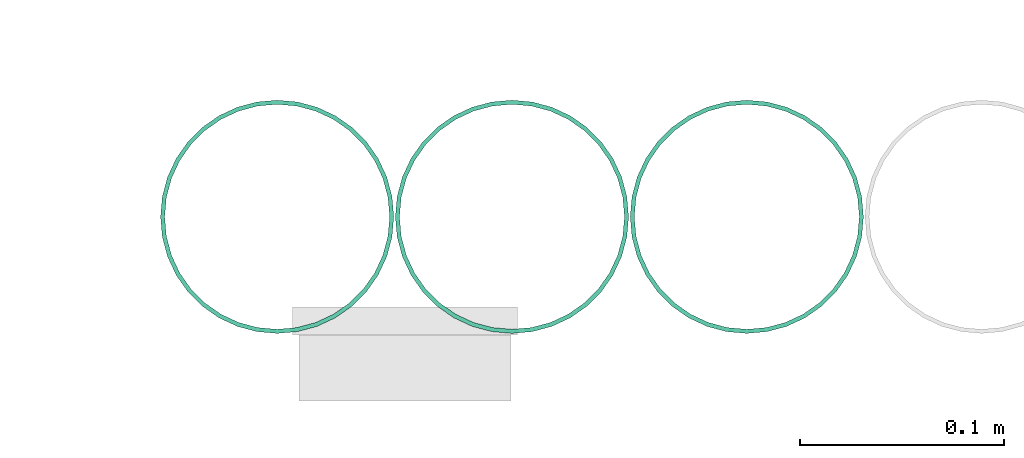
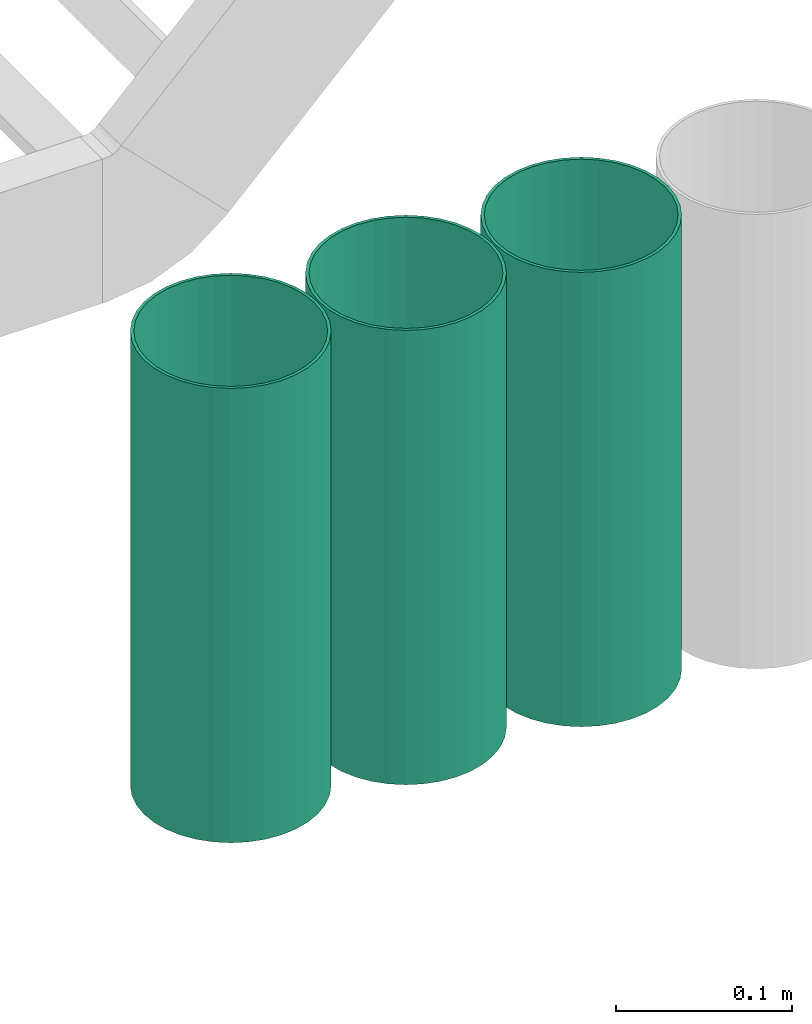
# One storey, part 11 of 14: 3 flow segments.
"""IFC2X3 building model written with IfcOpenShell, lengths in millimetres."""

from ifc_helpers import new_model, entity, si_unit, converted_unit, derived_unit, direction, frame, place, context, subcontext, project, spatial, faceted_brep, type_object, element, save


model = new_model("IFC2X3")

# Units and contexts
model_context = context("Model", 3, precision=0.01, world=frame((0.0, 4.29681676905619e-09, 0.0)), true_north=direction((4.01073788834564e-13, 1.0)))
plan_context = context("Plan", 3, precision=0.01, world=frame((0.0, 4.29681676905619e-09, 0.0)), true_north=direction((4.01073788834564e-13, 1.0)))
body_context = subcontext(model_context, "Body", "Model", "MODEL_VIEW")
ifc_project = project(units=[converted_unit("PLANEANGLEUNIT", "DEGREE", entity("IfcPositiveLengthMeasure", 0.0174532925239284), si_unit("PLANEANGLEUNIT", "RADIAN"), dimensions=[0, 0, 0, 0, 0, 0, 0]), si_unit("AREAUNIT", "SQUARE_METRE"), si_unit("LENGTHUNIT", "METRE", prefix="MILLI"), si_unit("MASSUNIT", "GRAM", prefix="KILO"), si_unit("POWERUNIT", "WATT"), si_unit("PRESSUREUNIT", "PASCAL"), si_unit("FORCEUNIT", "NEWTON", prefix="KILO"), si_unit("ELECTRICVOLTAGEUNIT", "VOLT"), si_unit("ELECTRICCURRENTUNIT", "AMPERE"), si_unit("THERMODYNAMICTEMPERATUREUNIT", "DEGREE_CELSIUS"), si_unit("TIMEUNIT", "SECOND"), si_unit("VOLUMEUNIT", "CUBIC_METRE"), derived_unit("LINEARVELOCITYUNIT", [(si_unit("LENGTHUNIT", "METRE"), 1), (si_unit("TIMEUNIT", "SECOND"), -1)]), derived_unit("VOLUMETRICFLOWRATEUNIT", [(si_unit("VOLUMEUNIT", "CUBIC_METRE"), 1), (si_unit("TIMEUNIT", "SECOND"), -1)]), derived_unit("THERMALTRANSMITTANCEUNIT", [(si_unit("POWERUNIT", "WATT"), 1), (si_unit("THERMODYNAMICTEMPERATUREUNIT", "KELVIN"), -1), (si_unit("AREAUNIT", "SQUARE_METRE"), -1)]), derived_unit("SOUNDPRESSUREUNIT", [(si_unit("PRESSUREUNIT", "PASCAL"), 1)])], contexts=[model_context, plan_context])

# Site, building, storey
site_placement = place(None, frame((0.0, -4.29681676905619e-09, 0.0), z_axis=(0.0, 0.0, 1.0), x_axis=(1.0, 0.0, 0.0)))
site = spatial("IfcSite", under=ifc_project, at=site_placement, Name="ENGM", CompositionType="ELEMENT")
building_placement = place(site_placement, frame((0.0, 4.29681676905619e-09, 0.0), z_axis=(0.0, 0.0, 1.0), x_axis=(1.0, 0.0, 0.0)))
building = spatial("IfcBuilding", under=site, at=building_placement, Name="TH", CompositionType="ELEMENT")
storey_placement = place(building_placement, frame((0.0, 0.0, 205200.0), z_axis=(0.0, 0.0, 1.0), x_axis=(1.0, 0.0, 0.0)))
storey = spatial("IfcBuildingStorey", under=building, at=storey_placement, Name="Nivå D + 1,2 m", CompositionType="ELEMENT", Elevation=205200.0)

# Flow segments
cable_carrier_segment_type = type_object("IfcCableCarrierSegmentType", Name="Trekkerør, glatt", PredefinedType="CONDUITSEGMENT")
flow_segment_1_placement = place(storey_placement, frame((898570.96951, 480505.64423, 2515.29999999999), z_axis=(-1.0, 0.0, 0.0), x_axis=(0.0, 0.0, 1.0)))
element("IfcFlowSegment", 1, at=flow_segment_1_placement, inside=storey, type_object=cable_carrier_segment_type, Name="Trekkerør, glatt", context=body_context, shape_type="Brep", body=[
    faceted_brep([(1484.70000000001, 54.2629071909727, -9.56801458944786), (1484.70000000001, 55.1, 0.0), (1800.0, 55.1, 0.0), (1800.0, 54.2629071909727, -9.56801458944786), (1484.70000000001, 51.7770634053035, -18.8453098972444), (1800.0, 51.7770634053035, -18.8453098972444), (1484.70000000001, 47.7179997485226, -27.55), (1800.0, 47.7179997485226, -27.55), (1484.70000000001, 42.2090488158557, -35.4175972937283), (1800.0, 42.2090488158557, -35.4175972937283), (1484.70000000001, 35.4175972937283, -42.2090488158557), (1800.0, 35.4175972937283, -42.2090488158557), (1484.70000000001, 27.55, -47.7179997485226), (1800.0, 27.55, -47.7179997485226), (1484.70000000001, 18.8453098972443, -51.7770634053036), (1800.0, 18.8453098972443, -51.7770634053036), (1484.70000000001, 9.56801458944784, -54.2629071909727), (1800.0, 9.56801458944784, -54.2629071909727), (1484.70000000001, -1.01217057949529e-14, -55.1), (1800.0, -1.01217057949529e-14, -55.1), (1484.70000000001, -9.56801458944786, -54.2629071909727), (1800.0, -9.56801458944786, -54.2629071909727), (1484.70000000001, -18.8453098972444, -51.7770634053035), (1800.0, -18.8453098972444, -51.7770634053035), (1484.70000000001, -27.55, -47.7179997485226), (1800.0, -27.55, -47.7179997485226), (1484.70000000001, -35.4175972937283, -42.2090488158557), (1800.0, -35.4175972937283, -42.2090488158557), (1484.70000000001, -42.2090488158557, -35.4175972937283), (1800.0, -42.2090488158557, -35.4175972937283), (1484.70000000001, -47.7179997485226, -27.55), (1800.0, -47.7179997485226, -27.55), (1484.70000000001, -51.7770634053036, -18.8453098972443), (1800.0, -51.7770634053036, -18.8453098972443), (1484.70000000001, -54.2629071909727, -9.56801458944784), (1800.0, -54.2629071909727, -9.56801458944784), (1484.70000000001, -55.1, 6.74780386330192e-15), (1800.0, -55.1, 6.74780386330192e-15), (1484.70000000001, -54.2629071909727, 9.56801458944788), (1800.0, -54.2629071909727, 9.56801458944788), (1484.70000000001, -51.7770634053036, 18.8453098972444), (1800.0, -51.7770634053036, 18.8453098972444), (1484.70000000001, -47.7179997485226, 27.55), (1800.0, -47.7179997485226, 27.55), (1484.70000000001, -42.2090488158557, 35.4175972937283), (1800.0, -42.2090488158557, 35.4175972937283), (1484.70000000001, -35.4175972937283, 42.2090488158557), (1800.0, -35.4175972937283, 42.2090488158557), (1484.70000000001, -27.55, 47.7179997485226), (1800.0, -27.55, 47.7179997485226), (1484.70000000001, -18.8453098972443, 51.7770634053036), (1800.0, -18.8453098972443, 51.7770634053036), (1484.70000000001, -9.56801458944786, 54.2629071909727), (1800.0, -9.56801458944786, 54.2629071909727), (1484.70000000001, 3.37390193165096e-15, 55.1), (1800.0, 3.37390193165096e-15, 55.1), (1484.70000000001, 9.56801458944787, 54.2629071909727), (1800.0, 9.56801458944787, 54.2629071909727), (1484.70000000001, 18.8453098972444, 51.7770634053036), (1800.0, 18.8453098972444, 51.7770634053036), (1484.70000000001, 27.55, 47.7179997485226), (1800.0, 27.55, 47.7179997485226), (1484.70000000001, 35.4175972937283, 42.2090488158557), (1800.0, 35.4175972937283, 42.2090488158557), (1484.70000000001, 42.2090488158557, 35.4175972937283), (1800.0, 42.2090488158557, 35.4175972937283), (1484.70000000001, 47.7179997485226, 27.55), (1800.0, 47.7179997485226, 27.55), (1484.70000000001, 51.7770634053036, 18.8453098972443), (1800.0, 51.7770634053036, 18.8453098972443), (1484.70000000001, 54.2629071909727, 9.56801458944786), (1800.0, 54.2629071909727, 9.56801458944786), (1484.70000000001, 57.1, 0.0), (1484.70000000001, 56.2325226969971, -9.91531094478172), (1800.0, 56.2325226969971, -9.91531094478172), (1800.0, 57.1, 0.0), (1484.70000000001, 56.2325226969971, 9.91531094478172), (1800.0, 56.2325226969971, 9.91531094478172), (1484.70000000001, 53.6564486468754, 19.5293501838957), (1800.0, 53.6564486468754, 19.5293501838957), (1484.70000000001, 49.4500505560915, 28.55), (1800.0, 49.4500505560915, 28.55), (1484.70000000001, 43.7411377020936, 36.7031725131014), (1800.0, 43.7411377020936, 36.7031725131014), (1484.70000000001, 36.7031725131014, 43.7411377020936), (1800.0, 36.7031725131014, 43.7411377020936), (1484.70000000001, 28.55, 49.4500505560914), (1800.0, 28.55, 49.4500505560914), (1484.70000000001, 19.5293501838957, 53.6564486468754), (1800.0, 19.5293501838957, 53.6564486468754), (1484.70000000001, 9.91531094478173, 56.2325226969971), (1800.0, 9.91531094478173, 56.2325226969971), (1484.70000000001, 3.49636661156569e-15, 57.1), (1800.0, 3.49636661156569e-15, 57.1), (1484.70000000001, -9.91531094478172, 56.2325226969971), (1800.0, -9.91531094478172, 56.2325226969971), (1484.70000000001, -19.5293501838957, 53.6564486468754), (1800.0, -19.5293501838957, 53.6564486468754), (1484.70000000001, -28.55, 49.4500505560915), (1800.0, -28.55, 49.4500505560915), (1484.70000000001, -36.7031725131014, 43.7411377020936), (1800.0, -36.7031725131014, 43.7411377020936), (1484.70000000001, -43.7411377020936, 36.7031725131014), (1800.0, -43.7411377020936, 36.7031725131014), (1484.70000000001, -49.4500505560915, 28.55), (1800.0, -49.4500505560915, 28.55), (1484.70000000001, -53.6564486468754, 19.5293501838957), (1800.0, -53.6564486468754, 19.5293501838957), (1484.70000000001, -56.2325226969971, 9.91531094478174), (1800.0, -56.2325226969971, 9.91531094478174), (1484.70000000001, -57.1, 6.99273322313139e-15), (1800.0, -57.1, 6.99273322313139e-15), (1484.70000000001, -56.2325226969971, -9.9153109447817), (1800.0, -56.2325226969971, -9.91531094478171), (1484.70000000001, -53.6564486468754, -19.5293501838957), (1800.0, -53.6564486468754, -19.5293501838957), (1484.70000000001, -49.4500505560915, -28.55), (1800.0, -49.4500505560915, -28.55), (1484.70000000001, -43.7411377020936, -36.7031725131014), (1800.0, -43.7411377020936, -36.7031725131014), (1484.70000000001, -36.7031725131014, -43.7411377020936), (1800.0, -36.7031725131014, -43.7411377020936), (1484.70000000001, -28.55, -49.4500505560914), (1800.0, -28.55, -49.4500505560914), (1484.70000000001, -19.5293501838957, -53.6564486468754), (1800.0, -19.5293501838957, -53.6564486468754), (1484.70000000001, -9.91531094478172, -56.2325226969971), (1800.0, -9.91531094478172, -56.2325226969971), (1484.70000000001, -1.04890998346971e-14, -57.1), (1800.0, -1.04890998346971e-14, -57.1), (1484.70000000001, 9.9153109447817, -56.2325226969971), (1800.0, 9.9153109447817, -56.2325226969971), (1484.70000000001, 19.5293501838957, -53.6564486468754), (1800.0, 19.5293501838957, -53.6564486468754), (1484.70000000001, 28.55, -49.4500505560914), (1800.0, 28.55, -49.4500505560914), (1484.70000000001, 36.7031725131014, -43.7411377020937), (1800.0, 36.7031725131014, -43.7411377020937), (1484.70000000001, 43.7411377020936, -36.7031725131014), (1800.0, 43.7411377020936, -36.7031725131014), (1484.70000000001, 49.4500505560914, -28.55), (1800.0, 49.4500505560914, -28.55), (1484.70000000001, 53.6564486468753, -19.5293501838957), (1800.0, 53.6564486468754, -19.5293501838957)], [[[0, 1, 2, 3]], [[4, 0, 3, 5]], [[6, 4, 5, 7]], [[8, 6, 7, 9]], [[10, 8, 9, 11]], [[12, 10, 11, 13]], [[14, 12, 13, 15]], [[16, 14, 15, 17]], [[18, 16, 17, 19]], [[20, 18, 19, 21]], [[22, 20, 21, 23]], [[24, 22, 23, 25]], [[26, 24, 25, 27]], [[28, 26, 27, 29]], [[30, 28, 29, 31]], [[32, 30, 31, 33]], [[34, 32, 33, 35]], [[36, 34, 35, 37]], [[38, 36, 37, 39]], [[40, 38, 39, 41]], [[42, 40, 41, 43]], [[44, 42, 43, 45]], [[46, 44, 45, 47]], [[48, 46, 47, 49]], [[50, 48, 49, 51]], [[52, 50, 51, 53]], [[54, 52, 53, 55]], [[56, 54, 55, 57]], [[58, 56, 57, 59]], [[60, 58, 59, 61]], [[62, 60, 61, 63]], [[64, 62, 63, 65]], [[66, 64, 65, 67]], [[68, 66, 67, 69]], [[70, 68, 69, 71]], [[1, 70, 71, 2]], [[72, 73, 74, 75]], [[76, 72, 75, 77]], [[78, 76, 77, 79]], [[80, 78, 79, 81]], [[82, 80, 81, 83]], [[84, 82, 83, 85]], [[86, 84, 85, 87]], [[88, 86, 87, 89]], [[90, 88, 89, 91]], [[92, 90, 91, 93]], [[94, 92, 93, 95]], [[96, 94, 95, 97]], [[98, 96, 97, 99]], [[100, 98, 99, 101]], [[102, 100, 101, 103]], [[104, 102, 103, 105]], [[106, 104, 105, 107]], [[108, 106, 107, 109]], [[110, 108, 109, 111]], [[112, 110, 111, 113]], [[114, 112, 113, 115]], [[116, 114, 115, 117]], [[118, 116, 117, 119]], [[120, 118, 119, 121]], [[122, 120, 121, 123]], [[124, 122, 123, 125]], [[126, 124, 125, 127]], [[128, 126, 127, 129]], [[130, 128, 129, 131]], [[132, 130, 131, 133]], [[134, 132, 133, 135]], [[136, 134, 135, 137]], [[138, 136, 137, 139]], [[140, 138, 139, 141]], [[142, 140, 141, 143]], [[73, 142, 143, 74]], [[75, 74, 143, 141, 139, 137, 135, 133, 131, 129, 127, 125, 123, 121, 119, 117, 115, 113, 111, 109, 107, 105, 103, 101, 99, 97, 95, 93, 91, 89, 87, 85, 83, 81, 79, 77], [2, 71, 69, 67, 65, 63, 61, 59, 57, 55, 53, 51, 49, 47, 45, 43, 41, 39, 37, 35, 33, 31, 29, 27, 25, 23, 21, 19, 17, 15, 13, 11, 9, 7, 5, 3]], [[76, 78, 80, 82, 84, 86, 88, 90, 92, 94, 96, 98, 100, 102, 104, 106, 108, 110, 112, 114, 116, 118, 120, 122, 124, 126, 128, 130, 132, 134, 136, 138, 140, 142, 73, 72], [4, 6, 8, 10, 12, 14, 16, 18, 20, 22, 24, 26, 28, 30, 32, 34, 36, 38, 40, 42, 44, 46, 48, 50, 52, 54, 56, 58, 60, 62, 64, 66, 68, 70, 1, 0]]], orient=[[False], [False], [False], [False], [False], [False], [False], [False], [False], [False], [False], [False], [False], [False], [False], [False], [False], [False], [False], [False], [False], [False], [False], [False], [False], [False], [False], [False], [False], [False], [False], [False], [False], [False], [False], [False], [False], [False], [False], [False], [False], [False], [False], [False], [False], [False], [False], [False], [False], [False], [False], [False], [False], [False], [False], [False], [False], [False], [False], [False], [False], [False], [False], [False], [False], [False], [False], [False], [False], [False], [False], [False], [False, False], [False, False]]),
])
flow_segment_2_placement = place(storey_placement, frame((898685.96951, 480505.64423, 2515.29999999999), z_axis=(-1.0, 0.0, 0.0), x_axis=(0.0, 0.0, 1.0)))
element("IfcFlowSegment", 2, at=flow_segment_2_placement, inside=storey, type_object=cable_carrier_segment_type, Name="Trekkerør, glatt", context=body_context, shape_type="Brep", body=[
    faceted_brep([(1484.70000000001, 54.2629071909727, -9.56801458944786), (1484.70000000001, 55.1, 0.0), (1800.0, 55.1, 0.0), (1800.0, 54.2629071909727, -9.56801458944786), (1484.70000000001, 51.7770634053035, -18.8453098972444), (1800.0, 51.7770634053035, -18.8453098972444), (1484.70000000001, 47.7179997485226, -27.55), (1800.0, 47.7179997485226, -27.55), (1484.70000000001, 42.2090488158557, -35.4175972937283), (1800.0, 42.2090488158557, -35.4175972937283), (1484.70000000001, 35.4175972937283, -42.2090488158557), (1800.0, 35.4175972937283, -42.2090488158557), (1484.70000000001, 27.55, -47.7179997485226), (1800.0, 27.55, -47.7179997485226), (1484.70000000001, 18.8453098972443, -51.7770634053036), (1800.0, 18.8453098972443, -51.7770634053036), (1484.70000000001, 9.56801458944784, -54.2629071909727), (1800.0, 9.56801458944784, -54.2629071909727), (1484.70000000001, -1.01217057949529e-14, -55.1), (1800.0, -1.01217057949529e-14, -55.1), (1484.70000000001, -9.56801458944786, -54.2629071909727), (1800.0, -9.56801458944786, -54.2629071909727), (1484.70000000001, -18.8453098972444, -51.7770634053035), (1800.0, -18.8453098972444, -51.7770634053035), (1484.70000000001, -27.55, -47.7179997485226), (1800.0, -27.55, -47.7179997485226), (1484.70000000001, -35.4175972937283, -42.2090488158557), (1800.0, -35.4175972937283, -42.2090488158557), (1484.70000000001, -42.2090488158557, -35.4175972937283), (1800.0, -42.2090488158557, -35.4175972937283), (1484.70000000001, -47.7179997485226, -27.55), (1800.0, -47.7179997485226, -27.55), (1484.70000000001, -51.7770634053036, -18.8453098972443), (1800.0, -51.7770634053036, -18.8453098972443), (1484.70000000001, -54.2629071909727, -9.56801458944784), (1800.0, -54.2629071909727, -9.56801458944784), (1484.70000000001, -55.1, 6.74780386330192e-15), (1800.0, -55.1, 6.74780386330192e-15), (1484.70000000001, -54.2629071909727, 9.56801458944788), (1800.0, -54.2629071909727, 9.56801458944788), (1484.70000000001, -51.7770634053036, 18.8453098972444), (1800.0, -51.7770634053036, 18.8453098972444), (1484.70000000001, -47.7179997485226, 27.55), (1800.0, -47.7179997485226, 27.55), (1484.70000000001, -42.2090488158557, 35.4175972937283), (1800.0, -42.2090488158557, 35.4175972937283), (1484.70000000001, -35.4175972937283, 42.2090488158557), (1800.0, -35.4175972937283, 42.2090488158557), (1484.70000000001, -27.55, 47.7179997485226), (1800.0, -27.55, 47.7179997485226), (1484.70000000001, -18.8453098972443, 51.7770634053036), (1800.0, -18.8453098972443, 51.7770634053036), (1484.70000000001, -9.56801458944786, 54.2629071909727), (1800.0, -9.56801458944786, 54.2629071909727), (1484.70000000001, 3.37390193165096e-15, 55.1), (1800.0, 3.37390193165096e-15, 55.1), (1484.70000000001, 9.56801458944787, 54.2629071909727), (1800.0, 9.56801458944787, 54.2629071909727), (1484.70000000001, 18.8453098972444, 51.7770634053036), (1800.0, 18.8453098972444, 51.7770634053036), (1484.70000000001, 27.55, 47.7179997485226), (1800.0, 27.55, 47.7179997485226), (1484.70000000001, 35.4175972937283, 42.2090488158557), (1800.0, 35.4175972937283, 42.2090488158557), (1484.70000000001, 42.2090488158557, 35.4175972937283), (1800.0, 42.2090488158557, 35.4175972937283), (1484.70000000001, 47.7179997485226, 27.55), (1800.0, 47.7179997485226, 27.55), (1484.70000000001, 51.7770634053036, 18.8453098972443), (1800.0, 51.7770634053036, 18.8453098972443), (1484.70000000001, 54.2629071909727, 9.56801458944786), (1800.0, 54.2629071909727, 9.56801458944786), (1484.70000000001, 57.1, 0.0), (1484.70000000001, 56.2325226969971, -9.91531094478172), (1800.0, 56.2325226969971, -9.91531094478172), (1800.0, 57.1, 0.0), (1484.70000000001, 56.2325226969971, 9.91531094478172), (1800.0, 56.2325226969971, 9.91531094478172), (1484.70000000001, 53.6564486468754, 19.5293501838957), (1800.0, 53.6564486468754, 19.5293501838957), (1484.70000000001, 49.4500505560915, 28.55), (1800.0, 49.4500505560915, 28.55), (1484.70000000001, 43.7411377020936, 36.7031725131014), (1800.0, 43.7411377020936, 36.7031725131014), (1484.70000000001, 36.7031725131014, 43.7411377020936), (1800.0, 36.7031725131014, 43.7411377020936), (1484.70000000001, 28.55, 49.4500505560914), (1800.0, 28.55, 49.4500505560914), (1484.70000000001, 19.5293501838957, 53.6564486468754), (1800.0, 19.5293501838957, 53.6564486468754), (1484.70000000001, 9.91531094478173, 56.2325226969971), (1800.0, 9.91531094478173, 56.2325226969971), (1484.70000000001, 3.49636661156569e-15, 57.1), (1800.0, 3.49636661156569e-15, 57.1), (1484.70000000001, -9.91531094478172, 56.2325226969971), (1800.0, -9.91531094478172, 56.2325226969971), (1484.70000000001, -19.5293501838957, 53.6564486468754), (1800.0, -19.5293501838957, 53.6564486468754), (1484.70000000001, -28.55, 49.4500505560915), (1800.0, -28.55, 49.4500505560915), (1484.70000000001, -36.7031725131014, 43.7411377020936), (1800.0, -36.7031725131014, 43.7411377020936), (1484.70000000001, -43.7411377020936, 36.7031725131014), (1800.0, -43.7411377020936, 36.7031725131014), (1484.70000000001, -49.4500505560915, 28.55), (1800.0, -49.4500505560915, 28.55), (1484.70000000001, -53.6564486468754, 19.5293501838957), (1800.0, -53.6564486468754, 19.5293501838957), (1484.70000000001, -56.2325226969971, 9.91531094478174), (1800.0, -56.2325226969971, 9.91531094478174), (1484.70000000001, -57.1, 6.99273322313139e-15), (1800.0, -57.1, 6.99273322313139e-15), (1484.70000000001, -56.2325226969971, -9.9153109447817), (1800.0, -56.2325226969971, -9.91531094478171), (1484.70000000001, -53.6564486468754, -19.5293501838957), (1800.0, -53.6564486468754, -19.5293501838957), (1484.70000000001, -49.4500505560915, -28.55), (1800.0, -49.4500505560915, -28.55), (1484.70000000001, -43.7411377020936, -36.7031725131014), (1800.0, -43.7411377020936, -36.7031725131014), (1484.70000000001, -36.7031725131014, -43.7411377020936), (1800.0, -36.7031725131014, -43.7411377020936), (1484.70000000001, -28.55, -49.4500505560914), (1800.0, -28.55, -49.4500505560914), (1484.70000000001, -19.5293501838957, -53.6564486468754), (1800.0, -19.5293501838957, -53.6564486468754), (1484.70000000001, -9.91531094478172, -56.2325226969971), (1800.0, -9.91531094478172, -56.2325226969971), (1484.70000000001, -1.04890998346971e-14, -57.1), (1800.0, -1.04890998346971e-14, -57.1), (1484.70000000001, 9.9153109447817, -56.2325226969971), (1800.0, 9.9153109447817, -56.2325226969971), (1484.70000000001, 19.5293501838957, -53.6564486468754), (1800.0, 19.5293501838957, -53.6564486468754), (1484.70000000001, 28.55, -49.4500505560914), (1800.0, 28.55, -49.4500505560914), (1484.70000000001, 36.7031725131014, -43.7411377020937), (1800.0, 36.7031725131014, -43.7411377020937), (1484.70000000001, 43.7411377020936, -36.7031725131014), (1800.0, 43.7411377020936, -36.7031725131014), (1484.70000000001, 49.4500505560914, -28.55), (1800.0, 49.4500505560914, -28.55), (1484.70000000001, 53.6564486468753, -19.5293501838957), (1800.0, 53.6564486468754, -19.5293501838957)], [[[0, 1, 2, 3]], [[4, 0, 3, 5]], [[6, 4, 5, 7]], [[8, 6, 7, 9]], [[10, 8, 9, 11]], [[12, 10, 11, 13]], [[14, 12, 13, 15]], [[16, 14, 15, 17]], [[18, 16, 17, 19]], [[20, 18, 19, 21]], [[22, 20, 21, 23]], [[24, 22, 23, 25]], [[26, 24, 25, 27]], [[28, 26, 27, 29]], [[30, 28, 29, 31]], [[32, 30, 31, 33]], [[34, 32, 33, 35]], [[36, 34, 35, 37]], [[38, 36, 37, 39]], [[40, 38, 39, 41]], [[42, 40, 41, 43]], [[44, 42, 43, 45]], [[46, 44, 45, 47]], [[48, 46, 47, 49]], [[50, 48, 49, 51]], [[52, 50, 51, 53]], [[54, 52, 53, 55]], [[56, 54, 55, 57]], [[58, 56, 57, 59]], [[60, 58, 59, 61]], [[62, 60, 61, 63]], [[64, 62, 63, 65]], [[66, 64, 65, 67]], [[68, 66, 67, 69]], [[70, 68, 69, 71]], [[1, 70, 71, 2]], [[72, 73, 74, 75]], [[76, 72, 75, 77]], [[78, 76, 77, 79]], [[80, 78, 79, 81]], [[82, 80, 81, 83]], [[84, 82, 83, 85]], [[86, 84, 85, 87]], [[88, 86, 87, 89]], [[90, 88, 89, 91]], [[92, 90, 91, 93]], [[94, 92, 93, 95]], [[96, 94, 95, 97]], [[98, 96, 97, 99]], [[100, 98, 99, 101]], [[102, 100, 101, 103]], [[104, 102, 103, 105]], [[106, 104, 105, 107]], [[108, 106, 107, 109]], [[110, 108, 109, 111]], [[112, 110, 111, 113]], [[114, 112, 113, 115]], [[116, 114, 115, 117]], [[118, 116, 117, 119]], [[120, 118, 119, 121]], [[122, 120, 121, 123]], [[124, 122, 123, 125]], [[126, 124, 125, 127]], [[128, 126, 127, 129]], [[130, 128, 129, 131]], [[132, 130, 131, 133]], [[134, 132, 133, 135]], [[136, 134, 135, 137]], [[138, 136, 137, 139]], [[140, 138, 139, 141]], [[142, 140, 141, 143]], [[73, 142, 143, 74]], [[75, 74, 143, 141, 139, 137, 135, 133, 131, 129, 127, 125, 123, 121, 119, 117, 115, 113, 111, 109, 107, 105, 103, 101, 99, 97, 95, 93, 91, 89, 87, 85, 83, 81, 79, 77], [2, 71, 69, 67, 65, 63, 61, 59, 57, 55, 53, 51, 49, 47, 45, 43, 41, 39, 37, 35, 33, 31, 29, 27, 25, 23, 21, 19, 17, 15, 13, 11, 9, 7, 5, 3]], [[76, 78, 80, 82, 84, 86, 88, 90, 92, 94, 96, 98, 100, 102, 104, 106, 108, 110, 112, 114, 116, 118, 120, 122, 124, 126, 128, 130, 132, 134, 136, 138, 140, 142, 73, 72], [4, 6, 8, 10, 12, 14, 16, 18, 20, 22, 24, 26, 28, 30, 32, 34, 36, 38, 40, 42, 44, 46, 48, 50, 52, 54, 56, 58, 60, 62, 64, 66, 68, 70, 1, 0]]], orient=[[False], [False], [False], [False], [False], [False], [False], [False], [False], [False], [False], [False], [False], [False], [False], [False], [False], [False], [False], [False], [False], [False], [False], [False], [False], [False], [False], [False], [False], [False], [False], [False], [False], [False], [False], [False], [False], [False], [False], [False], [False], [False], [False], [False], [False], [False], [False], [False], [False], [False], [False], [False], [False], [False], [False], [False], [False], [False], [False], [False], [False], [False], [False], [False], [False], [False], [False], [False], [False], [False], [False], [False], [False, False], [False, False]]),
])
flow_segment_3_placement = place(storey_placement, frame((898800.96951, 480505.64423, 2515.29999999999), z_axis=(-1.0, 0.0, 0.0), x_axis=(0.0, 0.0, 1.0)))
element("IfcFlowSegment", 3, at=flow_segment_3_placement, inside=storey, type_object=cable_carrier_segment_type, Name="Trekkerør, glatt", context=body_context, shape_type="Brep", body=[
    faceted_brep([(1484.70000000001, 54.2629071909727, -9.56801458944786), (1484.70000000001, 55.1, 0.0), (1800.0, 55.1, 0.0), (1800.0, 54.2629071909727, -9.56801458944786), (1484.70000000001, 51.7770634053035, -18.8453098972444), (1800.0, 51.7770634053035, -18.8453098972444), (1484.70000000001, 47.7179997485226, -27.55), (1800.0, 47.7179997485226, -27.55), (1484.70000000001, 42.2090488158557, -35.4175972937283), (1800.0, 42.2090488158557, -35.4175972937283), (1484.70000000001, 35.4175972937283, -42.2090488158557), (1800.0, 35.4175972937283, -42.2090488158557), (1484.70000000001, 27.55, -47.7179997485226), (1800.0, 27.55, -47.7179997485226), (1484.70000000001, 18.8453098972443, -51.7770634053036), (1800.0, 18.8453098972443, -51.7770634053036), (1484.70000000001, 9.56801458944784, -54.2629071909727), (1800.0, 9.56801458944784, -54.2629071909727), (1484.70000000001, -1.01217057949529e-14, -55.1), (1800.0, -1.01217057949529e-14, -55.1), (1484.70000000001, -9.56801458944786, -54.2629071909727), (1800.0, -9.56801458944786, -54.2629071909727), (1484.70000000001, -18.8453098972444, -51.7770634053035), (1800.0, -18.8453098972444, -51.7770634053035), (1484.70000000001, -27.55, -47.7179997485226), (1800.0, -27.55, -47.7179997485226), (1484.70000000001, -35.4175972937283, -42.2090488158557), (1800.0, -35.4175972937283, -42.2090488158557), (1484.70000000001, -42.2090488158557, -35.4175972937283), (1800.0, -42.2090488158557, -35.4175972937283), (1484.70000000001, -47.7179997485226, -27.55), (1800.0, -47.7179997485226, -27.55), (1484.70000000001, -51.7770634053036, -18.8453098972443), (1800.0, -51.7770634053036, -18.8453098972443), (1484.70000000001, -54.2629071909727, -9.56801458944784), (1800.0, -54.2629071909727, -9.56801458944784), (1484.70000000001, -55.1, 6.74780386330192e-15), (1800.0, -55.1, 6.74780386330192e-15), (1484.70000000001, -54.2629071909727, 9.56801458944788), (1800.0, -54.2629071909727, 9.56801458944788), (1484.70000000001, -51.7770634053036, 18.8453098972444), (1800.0, -51.7770634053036, 18.8453098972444), (1484.70000000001, -47.7179997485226, 27.55), (1800.0, -47.7179997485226, 27.55), (1484.70000000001, -42.2090488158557, 35.4175972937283), (1800.0, -42.2090488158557, 35.4175972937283), (1484.70000000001, -35.4175972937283, 42.2090488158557), (1800.0, -35.4175972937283, 42.2090488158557), (1484.70000000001, -27.55, 47.7179997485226), (1800.0, -27.55, 47.7179997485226), (1484.70000000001, -18.8453098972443, 51.7770634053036), (1800.0, -18.8453098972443, 51.7770634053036), (1484.70000000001, -9.56801458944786, 54.2629071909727), (1800.0, -9.56801458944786, 54.2629071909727), (1484.70000000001, 3.37390193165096e-15, 55.1), (1800.0, 3.37390193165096e-15, 55.1), (1484.70000000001, 9.56801458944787, 54.2629071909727), (1800.0, 9.56801458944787, 54.2629071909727), (1484.70000000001, 18.8453098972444, 51.7770634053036), (1800.0, 18.8453098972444, 51.7770634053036), (1484.70000000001, 27.55, 47.7179997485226), (1800.0, 27.55, 47.7179997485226), (1484.70000000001, 35.4175972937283, 42.2090488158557), (1800.0, 35.4175972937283, 42.2090488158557), (1484.70000000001, 42.2090488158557, 35.4175972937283), (1800.0, 42.2090488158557, 35.4175972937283), (1484.70000000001, 47.7179997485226, 27.55), (1800.0, 47.7179997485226, 27.55), (1484.70000000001, 51.7770634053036, 18.8453098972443), (1800.0, 51.7770634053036, 18.8453098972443), (1484.70000000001, 54.2629071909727, 9.56801458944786), (1800.0, 54.2629071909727, 9.56801458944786), (1484.70000000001, 57.1, 0.0), (1484.70000000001, 56.2325226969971, -9.91531094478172), (1800.0, 56.2325226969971, -9.91531094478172), (1800.0, 57.1, 0.0), (1484.70000000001, 56.2325226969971, 9.91531094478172), (1800.0, 56.2325226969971, 9.91531094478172), (1484.70000000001, 53.6564486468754, 19.5293501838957), (1800.0, 53.6564486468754, 19.5293501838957), (1484.70000000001, 49.4500505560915, 28.55), (1800.0, 49.4500505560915, 28.55), (1484.70000000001, 43.7411377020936, 36.7031725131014), (1800.0, 43.7411377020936, 36.7031725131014), (1484.70000000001, 36.7031725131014, 43.7411377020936), (1800.0, 36.7031725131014, 43.7411377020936), (1484.70000000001, 28.55, 49.4500505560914), (1800.0, 28.55, 49.4500505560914), (1484.70000000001, 19.5293501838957, 53.6564486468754), (1800.0, 19.5293501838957, 53.6564486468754), (1484.70000000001, 9.91531094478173, 56.2325226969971), (1800.0, 9.91531094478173, 56.2325226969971), (1484.70000000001, 3.49636661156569e-15, 57.1), (1800.0, 3.49636661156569e-15, 57.1), (1484.70000000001, -9.91531094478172, 56.2325226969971), (1800.0, -9.91531094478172, 56.2325226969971), (1484.70000000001, -19.5293501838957, 53.6564486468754), (1800.0, -19.5293501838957, 53.6564486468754), (1484.70000000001, -28.55, 49.4500505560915), (1800.0, -28.55, 49.4500505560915), (1484.70000000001, -36.7031725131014, 43.7411377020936), (1800.0, -36.7031725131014, 43.7411377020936), (1484.70000000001, -43.7411377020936, 36.7031725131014), (1800.0, -43.7411377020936, 36.7031725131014), (1484.70000000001, -49.4500505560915, 28.55), (1800.0, -49.4500505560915, 28.55), (1484.70000000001, -53.6564486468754, 19.5293501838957), (1800.0, -53.6564486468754, 19.5293501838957), (1484.70000000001, -56.2325226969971, 9.91531094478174), (1800.0, -56.2325226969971, 9.91531094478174), (1484.70000000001, -57.1, 6.99273322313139e-15), (1800.0, -57.1, 6.99273322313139e-15), (1484.70000000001, -56.2325226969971, -9.9153109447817), (1800.0, -56.2325226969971, -9.91531094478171), (1484.70000000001, -53.6564486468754, -19.5293501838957), (1800.0, -53.6564486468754, -19.5293501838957), (1484.70000000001, -49.4500505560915, -28.55), (1800.0, -49.4500505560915, -28.55), (1484.70000000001, -43.7411377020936, -36.7031725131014), (1800.0, -43.7411377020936, -36.7031725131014), (1484.70000000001, -36.7031725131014, -43.7411377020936), (1800.0, -36.7031725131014, -43.7411377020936), (1484.70000000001, -28.55, -49.4500505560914), (1800.0, -28.55, -49.4500505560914), (1484.70000000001, -19.5293501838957, -53.6564486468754), (1800.0, -19.5293501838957, -53.6564486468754), (1484.70000000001, -9.91531094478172, -56.2325226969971), (1800.0, -9.91531094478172, -56.2325226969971), (1484.70000000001, -1.04890998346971e-14, -57.1), (1800.0, -1.04890998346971e-14, -57.1), (1484.70000000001, 9.9153109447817, -56.2325226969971), (1800.0, 9.9153109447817, -56.2325226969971), (1484.70000000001, 19.5293501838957, -53.6564486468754), (1800.0, 19.5293501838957, -53.6564486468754), (1484.70000000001, 28.55, -49.4500505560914), (1800.0, 28.55, -49.4500505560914), (1484.70000000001, 36.7031725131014, -43.7411377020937), (1800.0, 36.7031725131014, -43.7411377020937), (1484.70000000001, 43.7411377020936, -36.7031725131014), (1800.0, 43.7411377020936, -36.7031725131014), (1484.70000000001, 49.4500505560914, -28.55), (1800.0, 49.4500505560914, -28.55), (1484.70000000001, 53.6564486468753, -19.5293501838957), (1800.0, 53.6564486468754, -19.5293501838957)], [[[0, 1, 2, 3]], [[4, 0, 3, 5]], [[6, 4, 5, 7]], [[8, 6, 7, 9]], [[10, 8, 9, 11]], [[12, 10, 11, 13]], [[14, 12, 13, 15]], [[16, 14, 15, 17]], [[18, 16, 17, 19]], [[20, 18, 19, 21]], [[22, 20, 21, 23]], [[24, 22, 23, 25]], [[26, 24, 25, 27]], [[28, 26, 27, 29]], [[30, 28, 29, 31]], [[32, 30, 31, 33]], [[34, 32, 33, 35]], [[36, 34, 35, 37]], [[38, 36, 37, 39]], [[40, 38, 39, 41]], [[42, 40, 41, 43]], [[44, 42, 43, 45]], [[46, 44, 45, 47]], [[48, 46, 47, 49]], [[50, 48, 49, 51]], [[52, 50, 51, 53]], [[54, 52, 53, 55]], [[56, 54, 55, 57]], [[58, 56, 57, 59]], [[60, 58, 59, 61]], [[62, 60, 61, 63]], [[64, 62, 63, 65]], [[66, 64, 65, 67]], [[68, 66, 67, 69]], [[70, 68, 69, 71]], [[1, 70, 71, 2]], [[72, 73, 74, 75]], [[76, 72, 75, 77]], [[78, 76, 77, 79]], [[80, 78, 79, 81]], [[82, 80, 81, 83]], [[84, 82, 83, 85]], [[86, 84, 85, 87]], [[88, 86, 87, 89]], [[90, 88, 89, 91]], [[92, 90, 91, 93]], [[94, 92, 93, 95]], [[96, 94, 95, 97]], [[98, 96, 97, 99]], [[100, 98, 99, 101]], [[102, 100, 101, 103]], [[104, 102, 103, 105]], [[106, 104, 105, 107]], [[108, 106, 107, 109]], [[110, 108, 109, 111]], [[112, 110, 111, 113]], [[114, 112, 113, 115]], [[116, 114, 115, 117]], [[118, 116, 117, 119]], [[120, 118, 119, 121]], [[122, 120, 121, 123]], [[124, 122, 123, 125]], [[126, 124, 125, 127]], [[128, 126, 127, 129]], [[130, 128, 129, 131]], [[132, 130, 131, 133]], [[134, 132, 133, 135]], [[136, 134, 135, 137]], [[138, 136, 137, 139]], [[140, 138, 139, 141]], [[142, 140, 141, 143]], [[73, 142, 143, 74]], [[75, 74, 143, 141, 139, 137, 135, 133, 131, 129, 127, 125, 123, 121, 119, 117, 115, 113, 111, 109, 107, 105, 103, 101, 99, 97, 95, 93, 91, 89, 87, 85, 83, 81, 79, 77], [2, 71, 69, 67, 65, 63, 61, 59, 57, 55, 53, 51, 49, 47, 45, 43, 41, 39, 37, 35, 33, 31, 29, 27, 25, 23, 21, 19, 17, 15, 13, 11, 9, 7, 5, 3]], [[76, 78, 80, 82, 84, 86, 88, 90, 92, 94, 96, 98, 100, 102, 104, 106, 108, 110, 112, 114, 116, 118, 120, 122, 124, 126, 128, 130, 132, 134, 136, 138, 140, 142, 73, 72], [4, 6, 8, 10, 12, 14, 16, 18, 20, 22, 24, 26, 28, 30, 32, 34, 36, 38, 40, 42, 44, 46, 48, 50, 52, 54, 56, 58, 60, 62, 64, 66, 68, 70, 1, 0]]], orient=[[False], [False], [False], [False], [False], [False], [False], [False], [False], [False], [False], [False], [False], [False], [False], [False], [False], [False], [False], [False], [False], [False], [False], [False], [False], [False], [False], [False], [False], [False], [False], [False], [False], [False], [False], [False], [False], [False], [False], [False], [False], [False], [False], [False], [False], [False], [False], [False], [False], [False], [False], [False], [False], [False], [False], [False], [False], [False], [False], [False], [False], [False], [False], [False], [False], [False], [False], [False], [False], [False], [False], [False], [False, False], [False, False]]),
])

save(model, "model.ifc")
